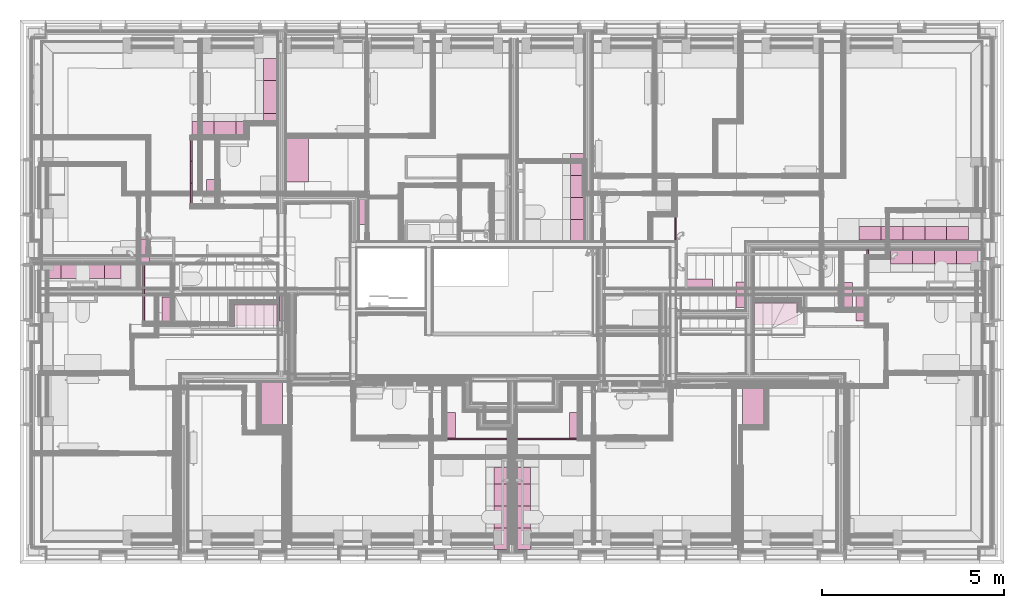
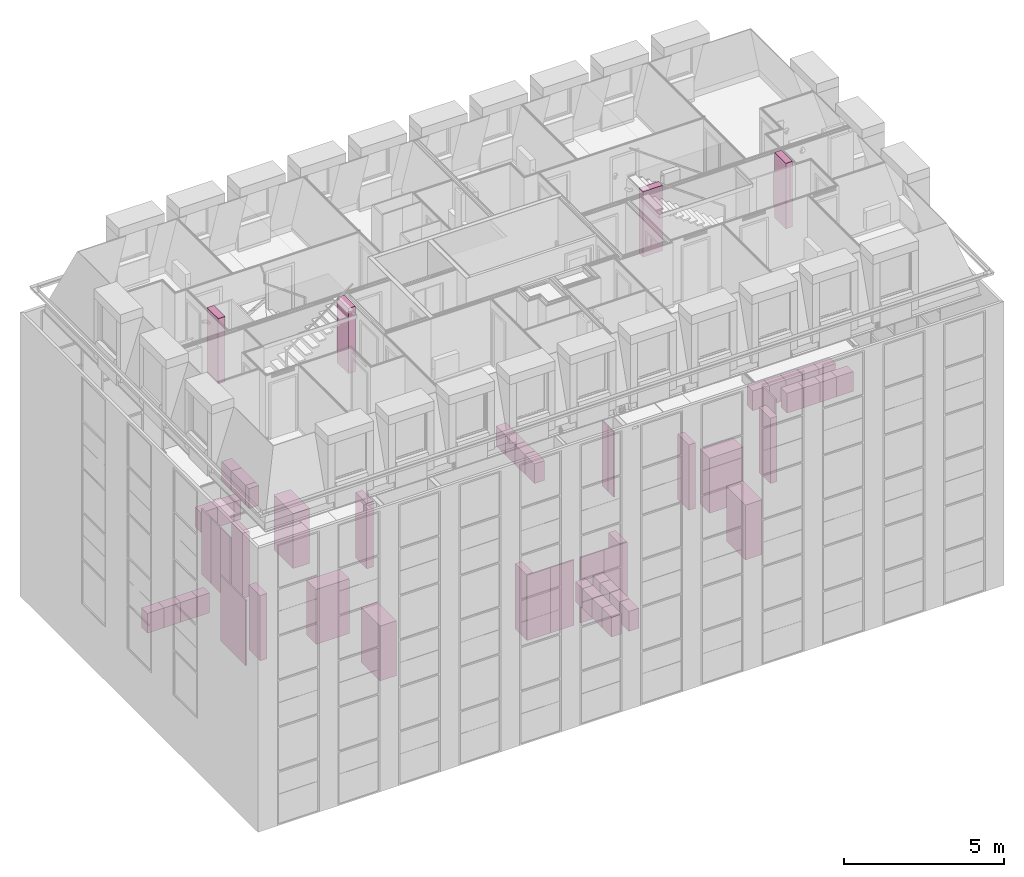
# One storey, part 166 of 169: 58 furnishings.
"""IFC2X3 building model written with IfcOpenShell, lengths in metres."""

from ifc_helpers import new_model, entity, si_unit, converted_unit, derived_unit, money_unit, direction, frame, frame_2d, origin_with_axes, place, context, subcontext, project, spatial, rectangle, extrude, type_object, element, save


model = new_model("IFC2X3")

# Units and contexts
model_context = context("Model", 3, precision=1e-05, world=origin_with_axes(), true_north=direction((0.0, 1.0)))
body_context = subcontext(model_context, "Body", "Model", "MODEL_VIEW", scale=1.0)
ifc_project = project(units=[si_unit("LENGTHUNIT", "METRE"), si_unit("AREAUNIT", "SQUARE_METRE"), si_unit("VOLUMEUNIT", "CUBIC_METRE"), si_unit("ABSORBEDDOSEUNIT", "GRAY"), si_unit("AMOUNTOFSUBSTANCEUNIT", "MOLE"), si_unit("DOSEEQUIVALENTUNIT", "SIEVERT"), si_unit("ELECTRICCAPACITANCEUNIT", "FARAD"), si_unit("ELECTRICCHARGEUNIT", "COULOMB"), si_unit("ELECTRICCONDUCTANCEUNIT", "SIEMENS"), si_unit("ELECTRICCURRENTUNIT", "AMPERE"), si_unit("ELECTRICRESISTANCEUNIT", "OHM"), si_unit("ELECTRICVOLTAGEUNIT", "VOLT"), si_unit("ENERGYUNIT", "JOULE"), si_unit("FORCEUNIT", "NEWTON"), si_unit("FREQUENCYUNIT", "HERTZ"), si_unit("ILLUMINANCEUNIT", "LUX"), si_unit("INDUCTANCEUNIT", "HENRY"), si_unit("LUMINOUSFLUXUNIT", "LUMEN"), si_unit("LUMINOUSINTENSITYUNIT", "CANDELA"), si_unit("MAGNETICFLUXDENSITYUNIT", "TESLA"), si_unit("MAGNETICFLUXUNIT", "WEBER"), si_unit("MASSUNIT", "GRAM"), converted_unit("PLANEANGLEUNIT", "degree", entity("IfcReal", 0.0174532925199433), si_unit("PLANEANGLEUNIT", "RADIAN"), dimensions=[0, 0, 0, 0, 0, 0, 0]), si_unit("POWERUNIT", "WATT"), si_unit("PRESSUREUNIT", "PASCAL"), si_unit("RADIOACTIVITYUNIT", "BECQUEREL"), si_unit("SOLIDANGLEUNIT", "STERADIAN"), si_unit("THERMODYNAMICTEMPERATUREUNIT", "KELVIN"), si_unit("TIMEUNIT", "SECOND"), derived_unit("ACCELERATIONUNIT", [(si_unit("LENGTHUNIT", "METRE"), 1), (si_unit("TIMEUNIT", "SECOND"), -2)]), derived_unit("ANGULARVELOCITYUNIT", [(converted_unit("PLANEANGLEUNIT", "degree", entity("IfcReal", 0.0174532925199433), si_unit("PLANEANGLEUNIT", "RADIAN"), dimensions=[0, 0, 0, 0, 0, 0, 0]), 1), (si_unit("TIMEUNIT", "SECOND"), -1)]), derived_unit("CURVATUREUNIT", [(converted_unit("PLANEANGLEUNIT", "degree", entity("IfcReal", 0.0174532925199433), si_unit("PLANEANGLEUNIT", "RADIAN"), dimensions=[0, 0, 0, 0, 0, 0, 0]), 1), (si_unit("LENGTHUNIT", "METRE"), -1)]), derived_unit("DYNAMICVISCOSITYUNIT", [(si_unit("PRESSUREUNIT", "PASCAL"), 1), (si_unit("TIMEUNIT", "SECOND"), 1)]), derived_unit("HEATFLUXDENSITYUNIT", [(si_unit("POWERUNIT", "WATT"), 1), (si_unit("LENGTHUNIT", "METRE"), -2)]), derived_unit("HEATINGVALUEUNIT", [(si_unit("ENERGYUNIT", "JOULE"), 1), (si_unit("MASSUNIT", "GRAM"), -1)]), derived_unit("INTEGERCOUNTRATEUNIT", [(si_unit("TIMEUNIT", "SECOND"), -1)]), derived_unit("IONCONCENTRATIONUNIT", [(si_unit("MASSUNIT", "GRAM"), 1), (si_unit("VOLUMEUNIT", "CUBIC_METRE"), -1)]), derived_unit("ISOTHERMALMOISTURECAPACITYUNIT", [(si_unit("VOLUMEUNIT", "CUBIC_METRE"), 1), (si_unit("MASSUNIT", "GRAM"), -1)]), derived_unit("KINEMATICVISCOSITYUNIT", [(si_unit("AREAUNIT", "SQUARE_METRE"), 1), (si_unit("TIMEUNIT", "SECOND"), -1)]), derived_unit("LINEARFORCEUNIT", [(si_unit("FORCEUNIT", "NEWTON"), 1), (si_unit("LENGTHUNIT", "METRE"), -1)]), derived_unit("LINEARMOMENTUNIT", [(si_unit("FORCEUNIT", "NEWTON"), 1), (si_unit("LENGTHUNIT", "METRE"), -1)]), derived_unit("LINEARSTIFFNESSUNIT", [(si_unit("FORCEUNIT", "NEWTON"), 1), (si_unit("LENGTHUNIT", "METRE"), -1)]), derived_unit("LINEARVELOCITYUNIT", [(si_unit("LENGTHUNIT", "METRE"), 1), (si_unit("TIMEUNIT", "SECOND"), -1)]), derived_unit("LUMINOUSINTENSITYDISTRIBUTIONUNIT", [(si_unit("LUMINOUSINTENSITYUNIT", "CANDELA"), 1), (si_unit("LUMINOUSFLUXUNIT", "LUMEN"), -1)]), derived_unit("MASSDENSITYUNIT", [(si_unit("MASSUNIT", "GRAM"), 1), (si_unit("VOLUMEUNIT", "CUBIC_METRE"), -1)]), derived_unit("MASSFLOWRATEUNIT", [(si_unit("MASSUNIT", "GRAM"), 1), (si_unit("TIMEUNIT", "SECOND"), -1)]), derived_unit("MASSPERLENGTHUNIT", [(si_unit("MASSUNIT", "GRAM"), 1), (si_unit("LENGTHUNIT", "METRE"), -1)]), derived_unit("MODULUSOFELASTICITYUNIT", [(si_unit("FORCEUNIT", "NEWTON"), 1), (si_unit("AREAUNIT", "SQUARE_METRE"), -1)]), derived_unit("MODULUSOFLINEARSUBGRADEREACTIONUNIT", [(si_unit("FORCEUNIT", "NEWTON"), 1), (si_unit("LENGTHUNIT", "METRE"), -2)]), derived_unit("MODULUSOFROTATIONALSUBGRADEREACTIONUNIT", [(si_unit("FORCEUNIT", "NEWTON"), 1), (si_unit("LENGTHUNIT", "METRE"), 1)]), derived_unit("MODULUSOFSUBGRADEREACTIONUNIT", [(si_unit("FORCEUNIT", "NEWTON"), 1), (si_unit("VOLUMEUNIT", "CUBIC_METRE"), -1)]), derived_unit("MOISTUREDIFFUSIVITYUNIT", [(si_unit("VOLUMEUNIT", "CUBIC_METRE"), 1), (si_unit("TIMEUNIT", "SECOND"), -1)]), derived_unit("MOLECULARWEIGHTUNIT", [(si_unit("MASSUNIT", "GRAM"), 1), (si_unit("AMOUNTOFSUBSTANCEUNIT", "MOLE"), -1)]), derived_unit("PLANARFORCEUNIT", [(si_unit("FORCEUNIT", "NEWTON"), 1), (si_unit("LENGTHUNIT", "METRE"), -2)]), derived_unit("ROTATIONALFREQUENCYUNIT", [(si_unit("TIMEUNIT", "SECOND"), -1)]), derived_unit("ROTATIONALMASSUNIT", [(si_unit("MASSUNIT", "GRAM"), 1), (si_unit("LENGTHUNIT", "METRE"), 2)]), derived_unit("ROTATIONALSTIFFNESSUNIT", [(si_unit("FORCEUNIT", "NEWTON"), 1), (si_unit("LENGTHUNIT", "METRE"), 1), (converted_unit("PLANEANGLEUNIT", "degree", entity("IfcReal", 0.0174532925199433), si_unit("PLANEANGLEUNIT", "RADIAN"), dimensions=[0, 0, 0, 0, 0, 0, 0]), -1)]), derived_unit("SECTIONAREAINTEGRALUNIT", [(si_unit("LENGTHUNIT", "METRE"), 5)]), derived_unit("SECTIONMODULUSUNIT", [(si_unit("LENGTHUNIT", "METRE"), 3)]), derived_unit("SHEARMODULUSUNIT", [(si_unit("FORCEUNIT", "NEWTON"), 1), (si_unit("AREAUNIT", "SQUARE_METRE"), -1)]), derived_unit("SOUNDPOWERUNIT", [(si_unit("ENERGYUNIT", "JOULE"), 1), (si_unit("TIMEUNIT", "SECOND"), -1)]), derived_unit("SPECIFICHEATCAPACITYUNIT", [(si_unit("FORCEUNIT", "NEWTON"), 1), (si_unit("MASSUNIT", "GRAM"), -1), (si_unit("THERMODYNAMICTEMPERATUREUNIT", "KELVIN"), -1)]), derived_unit("TEMPERATUREGRADIENTUNIT", [(si_unit("THERMODYNAMICTEMPERATUREUNIT", "KELVIN"), 1), (si_unit("LENGTHUNIT", "METRE"), -1)]), derived_unit("THERMALADMITTANCEUNIT", [(si_unit("POWERUNIT", "WATT"), 1), (si_unit("AREAUNIT", "SQUARE_METRE"), -1), (si_unit("THERMODYNAMICTEMPERATUREUNIT", "KELVIN"), -1)]), derived_unit("THERMALCONDUCTANCEUNIT", [(si_unit("POWERUNIT", "WATT"), 1), (si_unit("LENGTHUNIT", "METRE"), -1), (si_unit("THERMODYNAMICTEMPERATUREUNIT", "KELVIN"), -1)]), derived_unit("THERMALEXPANSIONCOEFFICIENTUNIT", [(si_unit("THERMODYNAMICTEMPERATUREUNIT", "KELVIN"), -1)]), derived_unit("THERMALRESISTANCEUNIT", [(si_unit("AREAUNIT", "SQUARE_METRE"), 1), (si_unit("POWERUNIT", "WATT"), -1)]), derived_unit("THERMALTRANSMITTANCEUNIT", [(si_unit("POWERUNIT", "WATT"), 1), (si_unit("AREAUNIT", "SQUARE_METRE"), -1), (si_unit("THERMODYNAMICTEMPERATUREUNIT", "KELVIN"), -1)]), derived_unit("TORQUEUNIT", [(si_unit("FORCEUNIT", "NEWTON"), 1), (si_unit("LENGTHUNIT", "METRE"), 1)]), derived_unit("VAPORPERMEABILITYUNIT", [(si_unit("MASSUNIT", "GRAM"), 1), (si_unit("TIMEUNIT", "SECOND"), -1)]), derived_unit("VOLUMETRICFLOWRATEUNIT", [(si_unit("VOLUMEUNIT", "CUBIC_METRE"), 1), (si_unit("TIMEUNIT", "SECOND"), -1)]), derived_unit("WARPINGCONSTANTUNIT", [(si_unit("LENGTHUNIT", "METRE"), 6)]), derived_unit("WARPINGMOMENTUNIT", [(si_unit("FORCEUNIT", "NEWTON"), 1), (si_unit("LENGTHUNIT", "METRE"), 2)]), money_unit("GBP")], contexts=[model_context])

# Site, building, storey, space
site_placement = place(None, origin_with_axes())
site = spatial("IfcSite", under=ifc_project, at=site_placement, Name="Site", CompositionType="ELEMENT")
building_placement = place(site_placement, origin_with_axes())
building = spatial("IfcBuilding", under=site, at=building_placement, Name="Building01", CompositionType="ELEMENT")
storey_placement = place(building_placement, frame((0.0, 0.0, 5.15), z_axis=(0.0, 0.0, 1.0), x_axis=(1.0, 0.0, 0.0)))
storey = spatial("IfcBuildingStorey", under=building, at=storey_placement, Name="1F", CompositionType="ELEMENT", Elevation=5.15)
space_1_placement = place(storey_placement, frame((0.318, 8.21067, 0.017975), z_axis=(0.0, 0.0, 1.0), x_axis=(0.0, -1.0, 0.0)))
space_1 = spatial("IfcSpace", under=storey, at=space_1_placement, Name="06", CompositionType="ELEMENT", InteriorOrExteriorSpace="NOTDEFINED")

# Furnishing
furniture_type_1 = type_object("IfcFurnitureType", Name="SHE_A-Cupboard_Electro")
furnishing_1_placement = place(storey_placement, frame((4.14573, 7.306475, 0.0), z_axis=(0.0, 0.0, 1.0), x_axis=(0.0, -1.0, 0.0)))
element("IfcFurnishingElement", 1, at=furnishing_1_placement, inside=space_1, type_object=furniture_type_1, Name="06", ObjectType="SHE_A-Cupboard_Electro", context=body_context, shape_type="SweptSolid", body=[
    extrude(rectangle(XDim=0.25, YDim=0.7, at=frame_2d((0.35, -0.125), x_axis=(0.0, -1.0))), origin_with_axes(), (0.0, 0.0, 1.0), 2.5),
])

# Space
space_2_placement = place(storey_placement, frame((9.285, 8.82, 0.017975), z_axis=(0.0, 0.0, 1.0), x_axis=(1.0, 0.0, 0.0)))
space_2 = spatial("IfcSpace", under=storey, at=space_2_placement, Name="storage", CompositionType="ELEMENT", InteriorOrExteriorSpace="NOTDEFINED")

# Furnishing
furnishing_2_placement = place(storey_placement, frame((9.3, 9.292704, 0.0), z_axis=(0.0, 0.0, 1.0), x_axis=(0.0, 1.0, 0.0)))
element("IfcFurnishingElement", 2, at=furnishing_2_placement, inside=space_2, type_object=furniture_type_1, Name="08", ObjectType="SHE_A-Cupboard_Electro", context=body_context, shape_type="SweptSolid", body=[
    extrude(rectangle(XDim=0.25, YDim=0.7, at=frame_2d((0.35, -0.125), x_axis=(0.0, -1.0))), origin_with_axes(), (0.0, 0.0, 1.0), 2.5),
])

# Space
space_3_placement = place(storey_placement, frame((19.486661, 9.42, 0.017975), z_axis=(0.0, 0.0, 1.0), x_axis=(0.0, -1.0, 0.0)))
space_3 = spatial("IfcSpace", under=storey, at=space_3_placement, Name="storage", CompositionType="ELEMENT", InteriorOrExteriorSpace="NOTDEFINED")

# Furnishing
furnishing_3_placement = place(storey_placement, frame((19.632661, 7.716, 0.0), z_axis=(0.0, 0.0, 1.0), x_axis=(0.0, -1.0, 0.0)))
element("IfcFurnishingElement", 3, at=furnishing_3_placement, inside=space_3, type_object=furniture_type_1, Name="02", ObjectType="SHE_A-Cupboard_Electro", context=body_context, shape_type="SweptSolid", body=[
    extrude(rectangle(XDim=0.25, YDim=0.7, at=frame_2d((0.35, 0.125), x_axis=(0.0, 1.0))), origin_with_axes(), (0.0, 0.0, 1.0), 2.5),
])

# Space
space_4_placement = place(storey_placement, frame((20.122661, 5.205, 0.017975), z_axis=(0.0, 0.0, 1.0), x_axis=(1.0, 0.0, 0.0)))
space_4 = spatial("IfcSpace", under=storey, at=space_4_placement, Name="03", CompositionType="ELEMENT", InteriorOrExteriorSpace="NOTDEFINED")

# Furnishing
furnishing_4_placement = place(storey_placement, frame((22.571661, 7.0, 0.0), z_axis=(0.0, 0.0, 1.0), x_axis=(0.0, 1.0, 0.0)))
element("IfcFurnishingElement", 4, at=furnishing_4_placement, inside=space_4, type_object=furniture_type_1, Name="03", ObjectType="SHE_A-Cupboard_Electro", context=body_context, shape_type="SweptSolid", body=[
    extrude(rectangle(XDim=0.25, YDim=0.7, at=frame_2d((0.35, -0.125), x_axis=(0.0, -1.0))), origin_with_axes(), (0.0, 0.0, 1.0), 2.5),
])

# Space
space_5_placement = place(storey_placement, frame((4.969669, 9.83067, 0.017975), z_axis=(0.0, 0.0, 1.0), x_axis=(1.0, 0.0, 0.0)))
space_5 = spatial("IfcSpace", under=storey, at=space_5_placement, Name="storage", CompositionType="ELEMENT", InteriorOrExteriorSpace="NOTDEFINED")

# Furnishing
furnishing_5_placement = place(storey_placement, frame((5.119669, 9.83067, 0.0), z_axis=(0.0, 0.0, 1.0), x_axis=(0.0, 1.0, 0.0)))
element("IfcFurnishingElement", 5, at=furnishing_5_placement, inside=space_5, type_object=furniture_type_1, Name="07", ObjectType="SHE_A-Cupboard_Electro", context=body_context, shape_type="SweptSolid", body=[
    extrude(rectangle(XDim=0.25, YDim=0.7, at=frame_2d((0.35, -0.125), x_axis=(0.0, -1.0))), origin_with_axes(), (0.0, 0.0, 1.0), 2.5),
])

# Space
space_6_placement = place(storey_placement, frame((14.85, 4.98, 0.017975), z_axis=(0.0, 0.0, 1.0), x_axis=(0.0, -1.0, 0.0)))
space_6 = spatial("IfcSpace", under=storey, at=space_6_placement, Name="04", CompositionType="ELEMENT", InteriorOrExteriorSpace="NOTDEFINED")

# Furnishing
furnishing_6_placement = place(storey_placement, frame((15.0625, 3.435, 0.0), z_axis=(0.0, 0.0, 1.0), x_axis=(0.0, 1.0, 0.0)))
element("IfcFurnishingElement", 6, at=furnishing_6_placement, inside=space_6, type_object=furniture_type_1, Name="04", ObjectType="SHE_A-Cupboard_Electro", context=body_context, shape_type="SweptSolid", body=[
    extrude(rectangle(XDim=0.25, YDim=0.7, at=frame_2d((0.35, -0.125), x_axis=(0.0, -1.0))), origin_with_axes(), (0.0, 0.0, 1.0), 2.5),
])

# Space
space_7_placement = place(storey_placement, frame((12.15, 4.98, 0.017975), z_axis=(0.0, 0.0, 1.0), x_axis=(-1.0, 0.0, 0.0)))
space_7 = spatial("IfcSpace", under=storey, at=space_7_placement, Name="05", CompositionType="ELEMENT", InteriorOrExteriorSpace="NOTDEFINED")

# Furnishing
furnishing_7_placement = place(storey_placement, frame((11.687536, 3.435, 0.0), z_axis=(0.0, 0.0, 1.0), x_axis=(0.0, 1.0, 0.0)))
element("IfcFurnishingElement", 7, at=furnishing_7_placement, inside=space_7, type_object=furniture_type_1, Name="05", ObjectType="SHE_A-Cupboard_Electro", context=body_context, shape_type="SweptSolid", body=[
    extrude(rectangle(XDim=0.25, YDim=0.7, at=frame_2d((0.35, -0.125), x_axis=(0.0, -1.0))), origin_with_axes(), (0.0, 0.0, 1.0), 2.5),
])

# Space
space_8_placement = place(storey_placement, frame((3.3, 8.899939, 9.86), z_axis=(0.0, 0.0, 1.0), x_axis=(0.0, -1.0, 0.0)))
space_8 = spatial("IfcSpace", under=storey, at=space_8_placement, Name="storage", CompositionType="ELEMENT", InteriorOrExteriorSpace="NOTDEFINED")

# Furnishing
furnishing_8_placement = place(storey_placement, frame((3.55, 8.899939, 9.83), z_axis=(0.0, 0.0, 1.0), x_axis=(0.0, -1.0, 0.0)))
element("IfcFurnishingElement", 8, at=furnishing_8_placement, inside=space_8, type_object=furniture_type_1, Name="26", ObjectType="SHE_A-Cupboard_Electro", context=body_context, shape_type="SweptSolid", body=[
    extrude(rectangle(XDim=0.25, YDim=0.7, at=frame_2d((0.35, -0.125), x_axis=(0.0, -1.0))), origin_with_axes(), (0.0, 0.0, 1.0), 2.5),
])

# Space
space_9_placement = place(storey_placement, frame((12.175, 4.189428, 9.86), z_axis=(0.0, 0.0, 1.0), x_axis=(0.0, 1.0, 0.0)))
space_9 = spatial("IfcSpace", under=storey, at=space_9_placement, Name="25", CompositionType="ELEMENT", InteriorOrExteriorSpace="NOTDEFINED")

# Furnishing
furnishing_9_placement = place(storey_placement, frame((7.11, 6.649939, 9.83), z_axis=(0.0, 0.0, 1.0), x_axis=(0.0, 1.0, 0.0)))
element("IfcFurnishingElement", 9, at=furnishing_9_placement, inside=space_9, type_object=furniture_type_1, Name="25", ObjectType="SHE_A-Cupboard_Electro", context=body_context, shape_type="SweptSolid", body=[
    extrude(rectangle(XDim=0.25, YDim=0.7, at=frame_2d((0.35, -0.125), x_axis=(0.0, -1.0))), origin_with_axes(), (0.0, 0.0, 1.0), 2.5),
])

# Space
space_10_placement = place(storey_placement, frame((21.51844, 7.349915, 9.83), z_axis=(0.0, 0.0, 1.0), x_axis=(0.0, -1.0, 0.0)))
space_10 = spatial("IfcSpace", under=storey, at=space_10_placement, Name="storage", CompositionType="ELEMENT", InteriorOrExteriorSpace="NOTDEFINED")

# Furnishing
furnishing_10_placement = place(storey_placement, frame((22.928821, 6.649939, 9.83), z_axis=(0.0, 0.0, 1.0), x_axis=(0.0, 1.0, 0.0)))
element("IfcFurnishingElement", 10, at=furnishing_10_placement, inside=space_10, type_object=furniture_type_1, Name="24", ObjectType="SHE_A-Cupboard_Electro", context=body_context, shape_type="SweptSolid", body=[
    extrude(rectangle(XDim=0.25, YDim=0.7, at=frame_2d((0.35, -0.125), x_axis=(0.0, -1.0))), origin_with_axes(), (0.0, 0.0, 1.0), 2.5),
])

# Space
space_11_placement = place(storey_placement, frame((18.239976, 7.549915, 9.86), z_axis=(0.0, 0.0, 1.0), x_axis=(1.0, 0.0, 0.0)))
space_11 = spatial("IfcSpace", under=storey, at=space_11_placement, Name="3", CompositionType="ELEMENT", InteriorOrExteriorSpace="NOTDEFINED")

# Furnishing
furnishing_11_placement = place(storey_placement, frame((18.289976, 7.799915, 9.83), z_axis=(0.0, 0.0, 1.0), x_axis=(1.0, 0.0, 0.0)))
element("IfcFurnishingElement", 11, at=furnishing_11_placement, inside=space_11, type_object=furniture_type_1, Name="23", ObjectType="SHE_A-Cupboard_Electro", context=body_context, shape_type="SweptSolid", body=[
    extrude(rectangle(XDim=0.25, YDim=0.7, at=frame_2d((0.35, -0.125), x_axis=(0.0, -1.0))), origin_with_axes(), (0.0, 0.0, 1.0), 2.5),
])

# Space
space_12_placement = place(storey_placement, frame((7.064669, 7.111475, 0.017975), z_axis=(0.0, 0.0, 1.0), x_axis=(-1.0, 0.0, 0.0)))
space_12 = spatial("IfcSpace", under=storey, at=space_12_placement, Name="k/d/l", CompositionType="ELEMENT", InteriorOrExteriorSpace="NOTDEFINED")

# Furnishings
furniture_type_2 = type_object("IfcFurnitureType", Name="SHE_A-Kitchenunit-Wall")
for number, where, z_axis, x_axis, name in (
    (12, (1.72073, 8.18817, 1.504), (0.0, 0.0, 1.0), (1.0, 0.0, 0.0), "06"),
    (13, (1.12073, 8.18817, 1.504), (0.0, 0.0, 1.0), (1.0, 0.0, 0.0), "06"),
    (14, (0.52073, 8.18817, 1.504), (0.0, 0.0, 1.0), (1.0, 0.0, 0.0), "06"),
):
    element("IfcFurnishingElement", number, at=place(storey_placement, frame(where, z_axis=z_axis, x_axis=x_axis)), inside=space_12, type_object=furniture_type_2, Name=name, ObjectType="SHE_A-Kitchenunit-Wall", context=body_context, shape_type="SweptSolid", body=[
        extrude(rectangle(XDim=0.37, YDim=0.6, at=frame_2d((0.3, -0.185), x_axis=(0.0, -1.0))), origin_with_axes(), (0.0, 0.0, 1.0), 0.76),
    ])

# Space
space_13_placement = place(storey_placement, frame((11.375, 10.415, 0.017975), z_axis=(0.0, 0.0, 1.0), x_axis=(1.0, 0.0, 0.0)))
space_13 = spatial("IfcSpace", under=storey, at=space_13_placement, Name="k/d/l", CompositionType="ELEMENT", InteriorOrExteriorSpace="NOTDEFINED")

# Furnishings
for number, where, z_axis, x_axis, name in (
    (15, (15.468132, 9.435, 1.504), (0.0, 0.0, 1.0), (0.0, -1.0, 0.0), "08"),
    (16, (15.468132, 10.035, 1.504), (0.0, 0.0, 1.0), (0.0, -1.0, 0.0), "08"),
    (17, (15.468132, 10.635, 1.504), (0.0, 0.0, 1.0), (0.0, -1.0, 0.0), "08"),
    (18, (15.468132, 11.235, 1.504), (0.0, 0.0, 1.0), (0.0, -1.0, 0.0), "08"),
):
    element("IfcFurnishingElement", number, at=place(storey_placement, frame(where, z_axis=z_axis, x_axis=x_axis)), inside=space_13, type_object=furniture_type_2, Name=name, ObjectType="SHE_A-Kitchenunit-Wall", context=body_context, shape_type="SweptSolid", body=[
        extrude(rectangle(XDim=0.37, YDim=0.6, at=frame_2d((0.3, -0.185), x_axis=(0.0, -1.0))), origin_with_axes(), (0.0, 0.0, 1.0), 0.76),
    ])

# Space
space_14_placement = place(storey_placement, frame((15.83, 8.82, 0.017975), z_axis=(0.0, 0.0, 1.0), x_axis=(0.0, -1.0, 0.0)))
space_14 = spatial("IfcSpace", under=storey, at=space_14_placement, Name="02", CompositionType="ELEMENT", InteriorOrExteriorSpace="NOTDEFINED")

# Furnishings
for number, where, z_axis, x_axis, name in (
    (19, (23.609999, 8.863, 1.504), (0.0, 0.0, 1.0), (-1.0, 0.0, 0.0), "02"),
    (20, (24.209999, 8.863, 1.504), (0.0, 0.0, 1.0), (-1.0, 0.0, 0.0), "02"),
    (21, (24.809999, 8.863, 1.504), (0.0, 0.0, 1.0), (-1.0, 0.0, 0.0), "02"),
    (22, (25.409999, 8.863, 1.504), (0.0, 0.0, 1.0), (-1.0, 0.0, 0.0), "02"),
    (23, (26.009999, 8.863, 1.504), (0.0, 0.0, 1.0), (-1.0, 0.0, 0.0), "02"),
):
    element("IfcFurnishingElement", number, at=place(storey_placement, frame(where, z_axis=z_axis, x_axis=x_axis)), inside=space_14, type_object=furniture_type_2, Name=name, ObjectType="SHE_A-Kitchenunit-Wall", context=body_context, shape_type="SweptSolid", body=[
        extrude(rectangle(XDim=0.37, YDim=0.6, at=frame_2d((0.3, -0.185), x_axis=(0.0, -1.0))), origin_with_axes(), (0.0, 0.0, 1.0), 0.76),
    ])

# Space
space_15_placement = place(storey_placement, frame((20.122661, 7.155, 0.017975), z_axis=(0.0, 0.0, 1.0), x_axis=(0.0, -1.0, 0.0)))
space_15 = spatial("IfcSpace", under=storey, at=space_15_placement, Name="studio", CompositionType="ELEMENT", InteriorOrExteriorSpace="NOTDEFINED")

# Furnishings
for number, where, z_axis, x_axis, name in (
    (24, (25.671529, 8.58, 1.504), (0.0, 0.0, 1.0), (-1.0, 0.0, 0.0), "03"),
    (25, (25.071529, 8.58, 1.504), (0.0, 0.0, 1.0), (-1.0, 0.0, 0.0), "03"),
    (26, (24.471529, 8.58, 1.504), (0.0, 0.0, 1.0), (-1.0, 0.0, 0.0), "03"),
    (27, (26.271529, 8.58, 1.504), (0.0, 0.0, 1.0), (-1.0, 0.0, 0.0), "03"),
):
    element("IfcFurnishingElement", number, at=place(storey_placement, frame(where, z_axis=z_axis, x_axis=x_axis)), inside=space_15, type_object=furniture_type_2, Name=name, ObjectType="SHE_A-Kitchenunit-Wall", context=body_context, shape_type="SweptSolid", body=[
        extrude(rectangle(XDim=0.37, YDim=0.6, at=frame_2d((0.3, 0.185), x_axis=(0.0, 1.0))), origin_with_axes(), (0.0, 0.0, 1.0), 0.76),
    ])
for number, where, z_axis, x_axis, name in (
    (28, (13.631, 2.175001, 1.504), (0.0, 0.0, 1.0), (0.0, -1.0, 0.0), "04"),
    (29, (13.631, 1.575001, 1.504), (0.0, 0.0, 1.0), (0.0, -1.0, 0.0), "04"),
):
    element("IfcFurnishingElement", number, at=place(storey_placement, frame(where, z_axis=z_axis, x_axis=x_axis)), inside=space_6, type_object=furniture_type_2, Name=name, ObjectType="SHE_A-Kitchenunit-Wall", context=body_context, shape_type="SweptSolid", body=[
        extrude(rectangle(XDim=0.37, YDim=0.6, at=frame_2d((0.3, 0.185), x_axis=(0.0, 1.0))), origin_with_axes(), (0.0, 0.0, 1.0), 0.76),
    ])

# Space
space_16_placement = place(storey_placement, frame((17.9025, 3.385, 0.017975), z_axis=(0.0, 0.0, 1.0), x_axis=(-1.0, 0.0, 0.0)))
space_16 = spatial("IfcSpace", under=storey, at=space_16_placement, Name="k/d/l", CompositionType="ELEMENT", InteriorOrExteriorSpace="NOTDEFINED")

# Furnishing
furnishing_12_placement = place(storey_placement, frame((13.631, 0.975001, 1.504), z_axis=(0.0, 0.0, 1.0), x_axis=(0.0, -1.0, 0.0)))
element("IfcFurnishingElement", 30, at=furnishing_12_placement, inside=space_16, type_object=furniture_type_2, Name="04", ObjectType="SHE_A-Kitchenunit-Wall", context=body_context, shape_type="SweptSolid", body=[
    extrude(rectangle(XDim=0.37, YDim=0.6, at=frame_2d((0.3, 0.185), x_axis=(0.0, 1.0))), origin_with_axes(), (0.0, 0.0, 1.0), 0.76),
])

# Space
space_17_placement = place(storey_placement, frame((6.595, 4.98, 0.017975), z_axis=(0.0, 0.0, 1.0), x_axis=(0.0, -1.0, 0.0)))
space_17 = spatial("IfcSpace", under=storey, at=space_17_placement, Name="k/d/l", CompositionType="ELEMENT", InteriorOrExteriorSpace="NOTDEFINED")

# Furnishings
for number, where, z_axis, x_axis, name in (
    (31, (13.369, 1.575001, 1.504), (0.0, 0.0, 1.0), (0.0, -1.0, 0.0), "05"),
    (32, (13.369, 0.975001, 1.504), (0.0, 0.0, 1.0), (0.0, -1.0, 0.0), "05"),
    (33, (13.369, 2.175001, 1.504), (0.0, 0.0, 1.0), (0.0, -1.0, 0.0), "05"),
):
    element("IfcFurnishingElement", number, at=place(storey_placement, frame(where, z_axis=z_axis, x_axis=x_axis)), inside=space_17, type_object=furniture_type_2, Name=name, ObjectType="SHE_A-Kitchenunit-Wall", context=body_context, shape_type="SweptSolid", body=[
        extrude(rectangle(XDim=0.37, YDim=0.6, at=frame_2d((0.3, -0.185), x_axis=(0.0, -1.0))), origin_with_axes(), (0.0, 0.0, 1.0), 0.76),
    ])

# Space
space_18_placement = place(storey_placement, frame((0.318, 11.72567, 0.017975), z_axis=(0.0, 0.0, 1.0), x_axis=(1.0, 0.0, 0.0)))
space_18 = spatial("IfcSpace", under=storey, at=space_18_placement, Name="k/d/l", CompositionType="ELEMENT", InteriorOrExteriorSpace="NOTDEFINED")

# Furnishings
for number, where, z_axis, x_axis, name in (
    (34, (4.719669, 11.74067, 1.504), (0.0, 0.0, 1.0), (1.0, 0.0, 0.0), "07"),
    (35, (7.049669, 13.24067, 1.504), (0.0, 0.0, 1.0), (0.0, 1.0, 0.0), "07"),
):
    element("IfcFurnishingElement", number, at=place(storey_placement, frame(where, z_axis=z_axis, x_axis=x_axis)), inside=space_18, type_object=furniture_type_2, Name=name, ObjectType="SHE_A-Kitchenunit-Wall", context=body_context, shape_type="SweptSolid", body=[
        extrude(rectangle(XDim=0.37, YDim=0.6, at=frame_2d((0.3, 0.185), x_axis=(0.0, 1.0))), origin_with_axes(), (0.0, 0.0, 1.0), 0.76),
    ])
furnishing_13_placement = place(storey_placement, frame((7.049669, 12.34067, 1.504), z_axis=(0.0, 0.0, 1.0), x_axis=(0.0, 1.0, 0.0)))
element("IfcFurnishingElement", 36, at=furnishing_13_placement, inside=space_18, type_object=furniture_type_2, Name="07", ObjectType="SHE_A-Kitchenunit-Wall", context=body_context, shape_type="SweptSolid", body=[
    extrude(rectangle(XDim=0.37, YDim=0.9, at=frame_2d((0.45, 0.185), x_axis=(0.0, 1.0))), origin_with_axes(), (0.0, 0.0, 1.0), 0.76),
])
furnishing_14_placement = place(storey_placement, frame((5.319669, 11.74067, 1.504), z_axis=(0.0, 0.0, 1.0), x_axis=(1.0, 0.0, 0.0)))
element("IfcFurnishingElement", 37, at=furnishing_14_placement, inside=space_18, type_object=furniture_type_2, Name="07", ObjectType="SHE_A-Kitchenunit-Wall", context=body_context, shape_type="SweptSolid", body=[
    extrude(rectangle(XDim=0.37, YDim=0.6, at=frame_2d((0.3, 0.185), x_axis=(0.0, 1.0))), origin_with_axes(), (0.0, 0.0, 1.0), 0.76),
])
furnishing_15_placement = place(storey_placement, frame((5.919669, 11.74067, 1.504), z_axis=(0.0, 0.0, 1.0), x_axis=(1.0, 0.0, 0.0)))
element("IfcFurnishingElement", 38, at=furnishing_15_placement, inside=space_18, type_object=furniture_type_2, Name="07", ObjectType="SHE_A-Kitchenunit-Wall", context=body_context, shape_type="SweptSolid", body=[
    extrude(rectangle(XDim=0.37, YDim=0.25, at=frame_2d((0.125, 0.185), x_axis=(0.0, 1.0))), origin_with_axes(), (0.0, 0.0, 1.0), 0.76),
])
furnishing_16_placement = place(storey_placement, frame((7.049669, 12.12567, 1.504), z_axis=(0.0, 0.0, 1.0), x_axis=(0.0, 1.0, 0.0)))
element("IfcFurnishingElement", 39, at=furnishing_16_placement, inside=space_18, type_object=furniture_type_2, Name="07", ObjectType="SHE_A-Kitchenunit-Wall", context=body_context, shape_type="SweptSolid", body=[
    extrude(rectangle(XDim=0.37, YDim=0.215, at=frame_2d((0.1075, 0.185), x_axis=(0.0, 1.0))), origin_with_axes(), (0.0, 0.0, 1.0), 0.76),
])
furniture_type_3 = type_object("IfcFurnitureType", Name="SHE_A-Wardrobe_hall 40x90")
furnishing_17_placement = place(storey_placement, frame((5.864669, 7.111475, 0.0), z_axis=(0.0, 0.0, 1.0), x_axis=(1.0, 0.0, 0.0)))
element("IfcFurnishingElement", 40, at=furnishing_17_placement, inside=space_1, type_object=furniture_type_3, Name="06", ObjectType="SHE_A-Wardrobe_hall 40x90", context=body_context, shape_type="SweptSolid", body=[
    extrude(rectangle(XDim=0.6, YDim=1.2, at=frame_2d((0.6, -0.3), x_axis=(0.0, -1.0))), origin_with_axes(), (0.0, 0.0, 1.0), 2.1),
])
furnishing_18_placement = place(storey_placement, frame((20.122661, 7.155, 0.0), z_axis=(0.0, 0.0, 1.0), x_axis=(1.0, 0.0, 0.0)))
element("IfcFurnishingElement", 41, at=furnishing_18_placement, inside=space_4, type_object=furniture_type_3, Name="03", ObjectType="SHE_A-Wardrobe_hall 40x90", context=body_context, shape_type="SweptSolid", body=[
    extrude(rectangle(XDim=0.6, YDim=1.2, at=frame_2d((0.6, -0.3), x_axis=(0.0, -1.0))), origin_with_axes(), (0.0, 0.0, 1.0), 2.1),
])

# Space
space_19_placement = place(storey_placement, frame((7.289669, 14.582, 0.017975), z_axis=(0.0, 0.0, 1.0), x_axis=(0.0, -1.0, 0.0)))
space_19 = spatial("IfcSpace", under=storey, at=space_19_placement, Name="08", CompositionType="ELEMENT", InteriorOrExteriorSpace="NOTDEFINED")

# Furnishings
furnishing_19_placement = place(storey_placement, frame((7.904669, 11.653124, 0.0), z_axis=(0.0, 0.0, 1.0), x_axis=(0.0, -1.0, 0.0)))
element("IfcFurnishingElement", 42, at=furnishing_19_placement, inside=space_19, type_object=furniture_type_3, Name="08", ObjectType="SHE_A-Wardrobe_hall 40x90", context=body_context, shape_type="SweptSolid", body=[
    extrude(rectangle(XDim=0.6, YDim=1.2, at=frame_2d((0.6, -0.3), x_axis=(0.0, -1.0))), origin_with_axes(), (0.0, 0.0, 1.0), 2.1),
])
furnishing_20_placement = place(storey_placement, frame((7.195, 4.98, 0.0), z_axis=(0.0, 0.0, 1.0), x_axis=(0.0, -1.0, 0.0)))
element("IfcFurnishingElement", 43, at=furnishing_20_placement, inside=space_7, type_object=furniture_type_3, Name="05", ObjectType="SHE_A-Wardrobe_hall 40x90", context=body_context, shape_type="SweptSolid", body=[
    extrude(rectangle(XDim=0.6, YDim=1.2, at=frame_2d((0.6, -0.3), x_axis=(0.0, -1.0))), origin_with_axes(), (0.0, 0.0, 1.0), 2.1),
])
furnishing_21_placement = place(storey_placement, frame((20.415, 4.98, 0.0), z_axis=(0.0, 0.0, 1.0), x_axis=(0.0, -1.0, 0.0)))
element("IfcFurnishingElement", 44, at=furnishing_21_placement, inside=space_16, type_object=furniture_type_3, Name="04", ObjectType="SHE_A-Wardrobe_hall 40x90", context=body_context, shape_type="SweptSolid", body=[
    extrude(rectangle(XDim=0.6, YDim=1.2, at=frame_2d((0.6, -0.3), x_axis=(0.0, -1.0))), origin_with_axes(), (0.0, 0.0, 1.0), 2.1),
])
furniture_type_4 = type_object("IfcFurnitureType", Name="SHE_A-Kitchenunit-Wall37x45")
furnishing_22_placement = place(storey_placement, frame((13.631, 2.175001, 1.504), z_axis=(0.0, 0.0, 1.0), x_axis=(0.0, 1.0, 0.0)))
element("IfcFurnishingElement", 45, at=furnishing_22_placement, inside=space_6, type_object=furniture_type_4, Name="04", ObjectType="SHE_A-Kitchenunit-Wall37x45", context=body_context, shape_type="SweptSolid", body=[
    extrude(rectangle(XDim=0.37, YDim=0.45, at=frame_2d((0.225, -0.185), x_axis=(0.0, -1.0))), origin_with_axes(), (0.0, 0.0, 1.0), 0.76),
])
furnishing_23_placement = place(storey_placement, frame((13.369, 2.175001, 1.504), z_axis=(0.0, 0.0, 1.0), x_axis=(0.0, 1.0, 0.0)))
element("IfcFurnishingElement", 46, at=furnishing_23_placement, inside=space_7, type_object=furniture_type_4, Name="05", ObjectType="SHE_A-Kitchenunit-Wall37x45", context=body_context, shape_type="SweptSolid", body=[
    extrude(rectangle(XDim=0.37, YDim=0.45, at=frame_2d((0.225, 0.185), x_axis=(0.0, 1.0))), origin_with_axes(), (0.0, 0.0, 1.0), 0.76),
])
furnishing_24_placement = place(storey_placement, frame((2.32073, 8.18817, 1.504), z_axis=(0.0, 0.0, 1.0), x_axis=(1.0, 0.0, 0.0)))
element("IfcFurnishingElement", 47, at=furnishing_24_placement, inside=space_1, type_object=furniture_type_4, Name="06", ObjectType="SHE_A-Kitchenunit-Wall37x45", context=body_context, shape_type="SweptSolid", body=[
    extrude(rectangle(XDim=0.37, YDim=0.45, at=frame_2d((0.225, -0.185), x_axis=(0.0, -1.0))), origin_with_axes(), (0.0, 0.0, 1.0), 0.76),
])
furniture_type_5 = type_object("IfcFurnitureType", Name="SHE_A-UtilityCupbord")
furnishing_25_placement = place(storey_placement, frame((3.37073, 8.18817, 0.0), z_axis=(0.0, 0.0, 1.0), x_axis=(1.0, 0.0, 0.0)))
element("IfcFurnishingElement", 48, at=furnishing_25_placement, inside=space_12, type_object=furniture_type_5, Name="06", ObjectType="SHE_A-UtilityCupbord", context=body_context, shape_type="SweptSolid", body=[
    extrude(rectangle(XDim=1.581695, YDim=0.05, at=frame_2d((0.025, -0.790847), x_axis=(0.0, -1.0))), origin_with_axes(), (0.0, 0.0, 1.0), 2.5),
])
furnishing_26_placement = place(storey_placement, frame((23.221529, 8.595, 0.0), z_axis=(0.0, 0.0, 1.0), x_axis=(1.0, 0.0, 0.0)))
element("IfcFurnishingElement", 49, at=furnishing_26_placement, inside=space_15, type_object=furniture_type_5, Name="03", ObjectType="SHE_A-UtilityCupbord", context=body_context, shape_type="SweptSolid", body=[
    extrude(rectangle(XDim=0.7725, YDim=0.05, at=frame_2d((0.025, -0.38625), x_axis=(0.0, -1.0))), origin_with_axes(), (0.0, 0.0, 1.0), 2.5),
])
for number, where, z_axis, x_axis, name in (
    (50, (13.6125, 3.385, 0.0), (0.0, 0.0, 1.0), (0.0, 1.0, 0.0), "04"),
    (51, (14.4625, 3.385, 0.0), (0.0, 0.0, 1.0), (0.0, 1.0, 0.0), "04"),
):
    element("IfcFurnishingElement", number, at=place(storey_placement, frame(where, z_axis=z_axis, x_axis=x_axis)), inside=space_16, type_object=furniture_type_5, Name=name, ObjectType="SHE_A-UtilityCupbord", context=body_context, shape_type="SweptSolid", body=[
        extrude(rectangle(XDim=0.85, YDim=0.05, at=frame_2d((0.025, -0.425), x_axis=(0.0, -1.0))), origin_with_axes(), (0.0, 0.0, 1.0), 2.5),
    ])

# Space
space_20_placement = place(storey_placement, frame((3.569669, 8.43567, 0.017975), z_axis=(0.0, 0.0, 1.0), x_axis=(1.0, 0.0, 0.0)))
space_20 = spatial("IfcSpace", under=storey, at=space_20_placement, Name="corridor", CompositionType="ELEMENT", InteriorOrExteriorSpace="NOTDEFINED")

# Furnishing
furnishing_27_placement = place(storey_placement, frame((4.669669, 11.63067, 0.0), z_axis=(0.0, 0.0, 1.0), x_axis=(1.0, 0.0, 0.0)))
element("IfcFurnishingElement", 52, at=furnishing_27_placement, inside=space_20, type_object=furniture_type_5, Name="07", ObjectType="SHE_A-UtilityCupbord", context=body_context, shape_type="SweptSolid", body=[
    extrude(rectangle(XDim=0.6, YDim=0.05, at=frame_2d((0.025, -0.3), x_axis=(0.0, -1.0))), origin_with_axes(), (0.0, 0.0, 1.0), 2.5),
])

# Space
space_21_placement = place(storey_placement, frame((22.624794, 10.57, 0.017975), z_axis=(0.0, 0.0, 1.0), x_axis=(-1.0, 0.0, 0.0)))
space_21 = spatial("IfcSpace", under=storey, at=space_21_placement, Name="corridor", CompositionType="ELEMENT", InteriorOrExteriorSpace="NOTDEFINED")

# Furnishings
for number, where, z_axis, x_axis, name in (
    (53, (17.95, 9.525, 0.0), (0.0, 0.0, 1.0), (1.0, 0.0, 0.0), "02"),
    (54, (17.95, 9.1725, 0.0), (0.0, 0.0, 1.0), (1.0, 0.0, 0.0), "02"),
):
    element("IfcFurnishingElement", number, at=place(storey_placement, frame(where, z_axis=z_axis, x_axis=x_axis)), inside=space_21, type_object=furniture_type_5, Name=name, ObjectType="SHE_A-UtilityCupbord", context=body_context, shape_type="SweptSolid", body=[
        extrude(rectangle(XDim=0.3525, YDim=0.05, at=frame_2d((0.025, -0.17625), x_axis=(0.0, -1.0))), origin_with_axes(), (0.0, 0.0, 1.0), 2.5),
    ])
for number, where, z_axis, x_axis, name in (
    (55, (4.669669, 11.03067, 0.0), (0.0, 0.0, 1.0), (1.0, 0.0, 0.0), "07"),
    (56, (4.669669, 10.43067, 0.0), (0.0, 0.0, 1.0), (1.0, 0.0, 0.0), "07"),
):
    element("IfcFurnishingElement", number, at=place(storey_placement, frame(where, z_axis=z_axis, x_axis=x_axis)), inside=space_20, type_object=furniture_type_5, Name=name, ObjectType="SHE_A-UtilityCupbord", context=body_context, shape_type="SweptSolid", body=[
        extrude(rectangle(XDim=0.6, YDim=0.05, at=frame_2d((0.025, -0.3), x_axis=(0.0, -1.0))), origin_with_axes(), (0.0, 0.0, 1.0), 2.5),
    ])
for number, where, z_axis, x_axis, name in (
    (57, (11.687536, 3.385, 0.0), (0.0, 0.0, 1.0), (0.0, 1.0, 0.0), "05"),
    (58, (12.537536, 3.385, 0.0), (0.0, 0.0, 1.0), (0.0, 1.0, 0.0), "05"),
):
    element("IfcFurnishingElement", number, at=place(storey_placement, frame(where, z_axis=z_axis, x_axis=x_axis)), inside=space_17, type_object=furniture_type_5, Name=name, ObjectType="SHE_A-UtilityCupbord", context=body_context, shape_type="SweptSolid", body=[
        extrude(rectangle(XDim=0.85, YDim=0.05, at=frame_2d((0.025, -0.425), x_axis=(0.0, -1.0))), origin_with_axes(), (0.0, 0.0, 1.0), 2.5),
    ])

save(model, "model.ifc")
